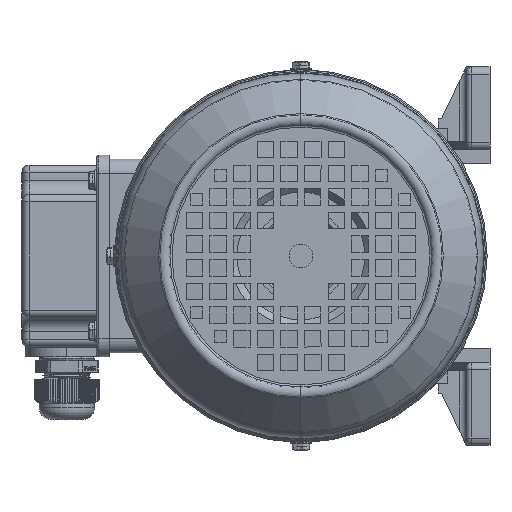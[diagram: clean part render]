
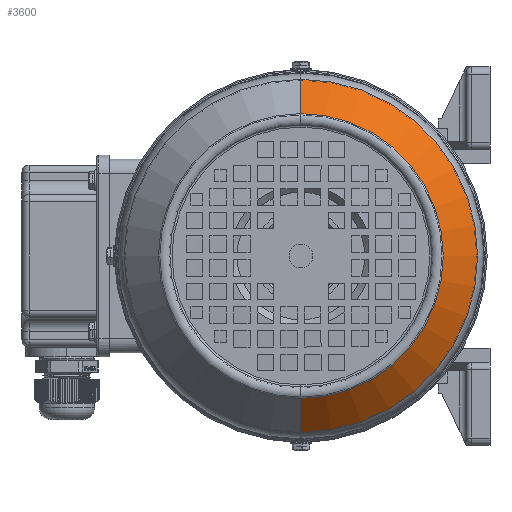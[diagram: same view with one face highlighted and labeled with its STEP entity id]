
A CAD part, left-side view. The second image highlights one B-rep face of the part: STEP entity #3600.
In plain terms, the highlighted conical face has half-angle 41.927 degrees and reference radius 77.3 mm.
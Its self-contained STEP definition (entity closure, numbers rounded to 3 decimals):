
#2511 = DIRECTION ( 'NONE',  ( -1., 0., 0. ) ) ;
#3497 = ORIENTED_EDGE ( 'NONE', *, *, #3981, .T. ) ;
#3600 = ADVANCED_FACE ( 'NONE', ( #92748 ), #30252, .T. ) ;
#3981 = EDGE_CURVE ( 'NONE', #107186, #74833, #88832, .T. ) ;
#9550 = ORIENTED_EDGE ( 'NONE', *, *, #32145, .F. ) ;
#11202 = AXIS2_PLACEMENT_3D ( 'NONE', #100660, #100324, #83933 ) ;
#12315 = CIRCLE ( 'NONE', #77360, 60.232 ) ;
#18421 = EDGE_LOOP ( 'NONE', ( #9550, #100108, #3497, #101992 ) ) ;
#21212 = VERTEX_POINT ( 'NONE', #65552 ) ;
#25438 = DIRECTION ( 'NONE',  ( 1., 0., 0. ) ) ;
#28643 = DIRECTION ( 'NONE',  ( 0., 0., 1. ) ) ;
#30252 = CONICAL_SURFACE ( 'NONE', #80202, 77.3, 0.732 ) ;
#32145 = EDGE_CURVE ( 'NONE', #92163, #21212, #76737, .T. ) ;
#36417 = EDGE_CURVE ( 'NONE', #107186, #92163, #12315, .T. ) ;
#41427 = EDGE_CURVE ( 'NONE', #74833, #21212, #54139, .T. ) ;
#41831 = DIRECTION ( 'NONE',  ( 0.744, 0., 0.668 ) ) ;
#49684 = VECTOR ( 'NONE', #59894, 1000. ) ;
#50767 = CARTESIAN_POINT ( 'NONE',  ( -56., 0., -77.3 ) ) ;
#53938 = CARTESIAN_POINT ( 'NONE',  ( -75.005, 0., 60.232 ) ) ;
#54139 = CIRCLE ( 'NONE', #11202, 74.74 ) ;
#59652 = CARTESIAN_POINT ( 'NONE',  ( -56., 0., 77.3 ) ) ;
#59894 = DIRECTION ( 'NONE',  ( 0.744, 0., -0.668 ) ) ;
#65108 = VECTOR ( 'NONE', #41831, 1000. ) ;
#65552 = CARTESIAN_POINT ( 'NONE',  ( -58.851, 0., 74.74 ) ) ;
#70401 = CARTESIAN_POINT ( 'NONE',  ( -58.851, 0., -74.74 ) ) ;
#74833 = VERTEX_POINT ( 'NONE', #70401 ) ;
#76737 = LINE ( 'NONE', #59652, #65108 ) ;
#77360 = AXIS2_PLACEMENT_3D ( 'NONE', #95354, #2511, #28643 ) ;
#80202 = AXIS2_PLACEMENT_3D ( 'NONE', #100181, #25438, #99817 ) ;
#83933 = DIRECTION ( 'NONE',  ( 0., 0., 1. ) ) ;
#88832 = LINE ( 'NONE', #50767, #49684 ) ;
#92163 = VERTEX_POINT ( 'NONE', #53938 ) ;
#92748 = FACE_OUTER_BOUND ( 'NONE', #18421, .T. ) ;
#95354 = CARTESIAN_POINT ( 'NONE',  ( -75.005, 0., 0. ) ) ;
#99817 = DIRECTION ( 'NONE',  ( 0., 0., -1. ) ) ;
#100108 = ORIENTED_EDGE ( 'NONE', *, *, #36417, .F. ) ;
#100181 = CARTESIAN_POINT ( 'NONE',  ( -56., 0., 0. ) ) ;
#100324 = DIRECTION ( 'NONE',  ( -1., 0., 0. ) ) ;
#100660 = CARTESIAN_POINT ( 'NONE',  ( -58.851, 0., 0. ) ) ;
#101751 = CARTESIAN_POINT ( 'NONE',  ( -75.005, 0., -60.232 ) ) ;
#101992 = ORIENTED_EDGE ( 'NONE', *, *, #41427, .T. ) ;
#107186 = VERTEX_POINT ( 'NONE', #101751 ) ;
